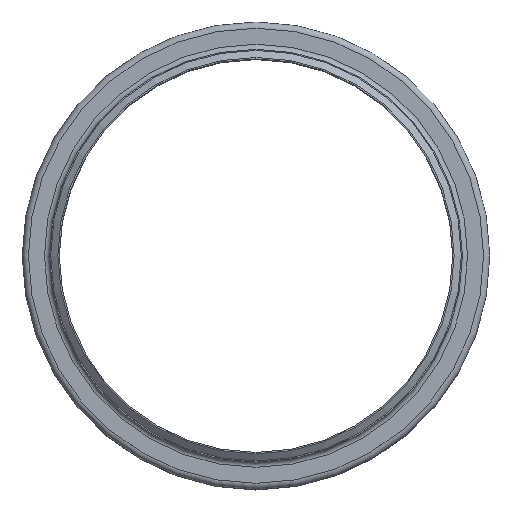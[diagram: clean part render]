
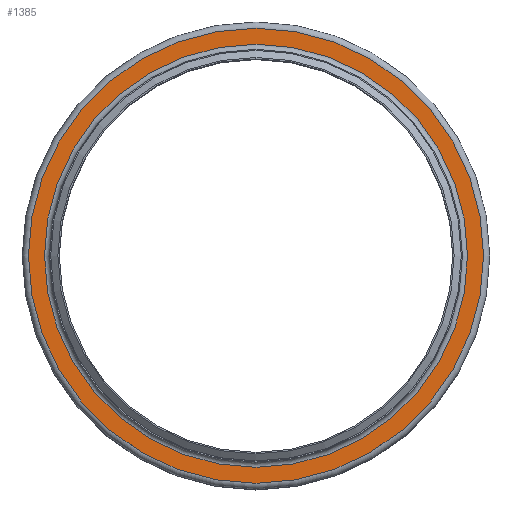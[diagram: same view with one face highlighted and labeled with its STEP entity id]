
A CAD part, top view. The second image highlights one B-rep face of the part: STEP entity #1385.
In plain terms, the highlighted planar face has unit normal (0, 0, 1).
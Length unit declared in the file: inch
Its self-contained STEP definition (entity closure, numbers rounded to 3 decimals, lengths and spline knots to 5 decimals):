
#155=FACE_BOUND('',#416,.T.);
#256=FACE_OUTER_BOUND('',#415,.T.);
#415=EDGE_LOOP('',(#1168));
#416=EDGE_LOOP('',(#1169));
#584=CIRCLE('',#1684,9.274);
#585=CIRCLE('',#1686,9.976);
#703=VERTEX_POINT('',#2631);
#704=VERTEX_POINT('',#2635);
#862=EDGE_CURVE('',#703,#703,#584,.T.);
#863=EDGE_CURVE('',#704,#704,#585,.T.);
#1168=ORIENTED_EDGE('',*,*,#863,.F.);
#1169=ORIENTED_EDGE('',*,*,#862,.T.);
#1284=PLANE('',#1685);
#1385=ADVANCED_FACE('',(#256,#155),#1284,.T.);
#1684=AXIS2_PLACEMENT_3D('',#2633,#2197,#2198);
#1685=AXIS2_PLACEMENT_3D('',#2634,#2199,#2200);
#1686=AXIS2_PLACEMENT_3D('',#2636,#2201,#2202);
#2197=DIRECTION('center_axis',(0.,0.,-1.));
#2198=DIRECTION('ref_axis',(1.,0.,0.));
#2199=DIRECTION('center_axis',(0.,0.,1.));
#2200=DIRECTION('ref_axis',(1.,0.,0.));
#2201=DIRECTION('center_axis',(0.,0.,-1.));
#2202=DIRECTION('ref_axis',(1.,0.,0.));
#2631=CARTESIAN_POINT('',(9.274,0.,-0.226));
#2633=CARTESIAN_POINT('Origin',(0.,0.,-0.226));
#2634=CARTESIAN_POINT('Origin',(0.,9.976,-0.226));
#2635=CARTESIAN_POINT('',(9.976,0.,-0.226));
#2636=CARTESIAN_POINT('Origin',(0.,0.,-0.226));
